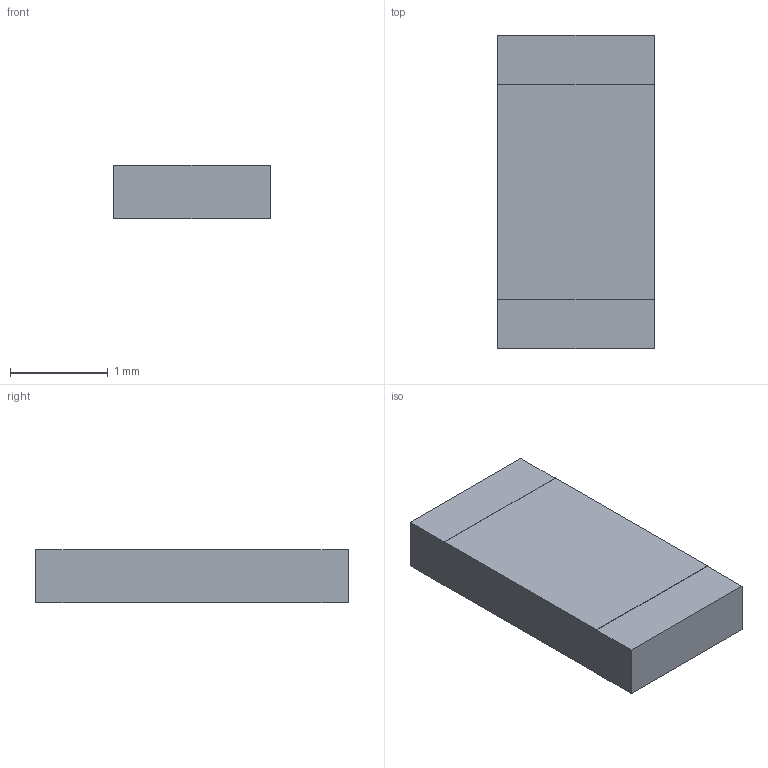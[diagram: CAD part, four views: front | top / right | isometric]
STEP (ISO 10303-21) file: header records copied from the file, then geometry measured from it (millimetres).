
FILE_DESCRIPTION(/* description */ (''),/* implementation_level */ '2;1');
FILE_NAME(/* name */ '\\wsse03\home\msaalfrank\Konstruktion\tknuschke\1206.stp',/* time_stamp */ '2020-11-09T12:45:09+01:00',/* author */ ('msaalfrank'),/* organization */ (''),/* preprocessor_version */ 'ST-DEVELOPER v16.5',/* originating_system */ 'Autodesk Inventor 2017',/* authorisation */ '');
FILE_SCHEMA (('AUTOMOTIVE_DESIGN { 1 0 10303 214 3 1 1 }'));
Length unit declared in the file: millimetre
Products named in the file (1): 1206
Bounding box: 1.6 x 3.2 x 0.55 mm (x, y, z)
Volume: 2.8 mm3; surface area: 15.5 mm2
Topology: 1 solids, 1 shells, 14 faces, 36 edges, 24 vertices
Faces by surface type: plane 14
Entity records: 481 total; most frequent: CARTESIAN_POINT 75, ORIENTED_EDGE 72, DIRECTION 66, LINE 36, VECTOR 36, EDGE_CURVE 36, VERTEX_POINT 24, AXIS2_PLACEMENT_3D 15
